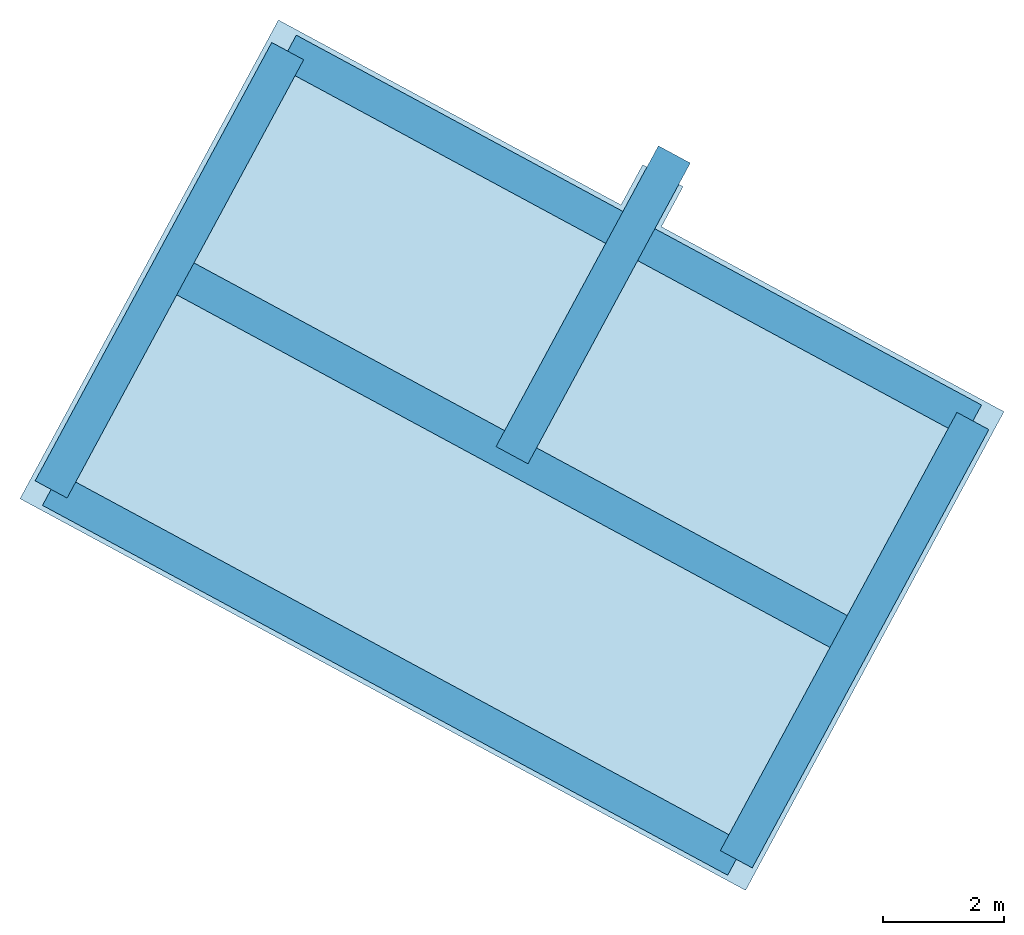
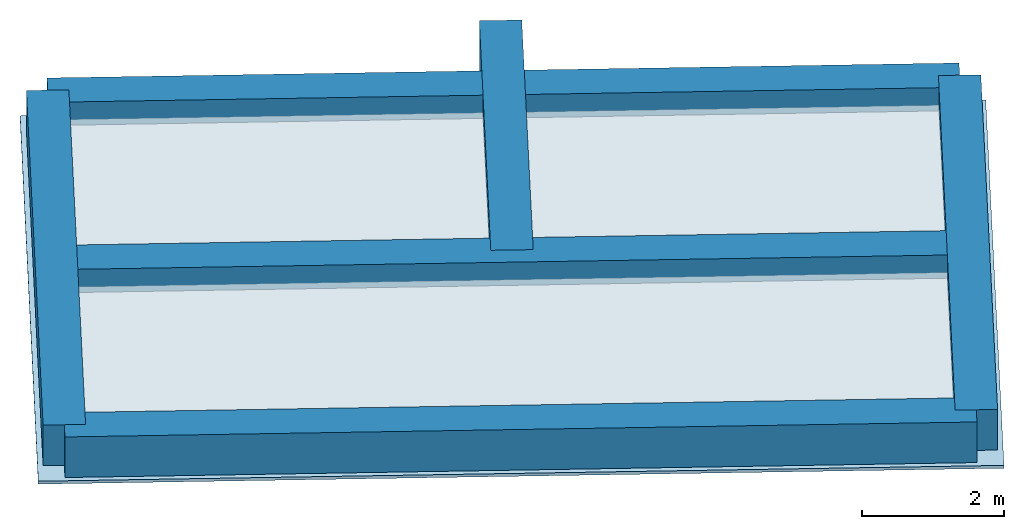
# One storey, part 1 of 2: 9 footings, 1 slab.
"""IFC2X3 building model written with IfcOpenShell, lengths in metres."""

from ifc_helpers import new_model, entity, si_unit, converted_unit, derived_unit, money_unit, direction, frame, origin_with_axes, origin_2d_with_axis, place, context, subcontext, project, spatial, polyline, rectangle, outline, extrude, material, layer, layer_set, layer_usage, type_object, element, save


model = new_model("IFC2X3")

# Units and contexts
model_context = context("Model", 3, precision=1e-05, world=origin_with_axes(), true_north=direction((0.0, 1.0)))
body_context = subcontext(model_context, "Body", "Model", "MODEL_VIEW")
ifc_project = project(units=[si_unit("LENGTHUNIT", "METRE"), si_unit("AREAUNIT", "SQUARE_METRE"), si_unit("VOLUMEUNIT", "CUBIC_METRE"), converted_unit("PLANEANGLEUNIT", "DEGREE", entity("IfcPlaneAngleMeasure", 0.0174532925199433), si_unit("PLANEANGLEUNIT", "RADIAN"), dimensions=[0, 0, 0, 0, 0, 0, 0]), money_unit("EUR"), converted_unit("TIMEUNIT", "Year", entity("IfcTimeMeasure", 31556926.0), si_unit("TIMEUNIT", "SECOND"), dimensions=[0, 0, 1, 0, 0, 0, 0]), si_unit("MASSUNIT", "GRAM", prefix="KILO"), si_unit("THERMODYNAMICTEMPERATUREUNIT", "DEGREE_CELSIUS"), si_unit("LUMINOUSINTENSITYUNIT", "LUMEN"), si_unit("ENERGYUNIT", "JOULE", prefix="MEGA"), derived_unit("THERMALCONDUCTANCEUNIT", [(si_unit("POWERUNIT", "WATT"), 1), (si_unit("LENGTHUNIT", "METRE"), -1), (si_unit("THERMODYNAMICTEMPERATUREUNIT", "KELVIN"), -1)]), derived_unit("SPECIFICHEATCAPACITYUNIT", [(si_unit("ENERGYUNIT", "JOULE"), 1), (si_unit("MASSUNIT", "GRAM", prefix="KILO"), -1), (si_unit("THERMODYNAMICTEMPERATUREUNIT", "KELVIN"), -1)]), derived_unit("MASSDENSITYUNIT", [(si_unit("MASSUNIT", "GRAM", prefix="KILO"), 1), (si_unit("VOLUMEUNIT", "CUBIC_METRE"), -1)])], contexts=[model_context])

# Site, building, storey
site_placement = place(None, frame((-3.949935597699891, 1.740105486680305, 0.0), z_axis=(0.0, 0.0, 1.0), x_axis=(0.8799804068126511, -0.475009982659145, 0.0)))
site = spatial("IfcSite", under=ifc_project, at=site_placement, Name="Gelände", CompositionType="ELEMENT")
building_placement = place(site_placement, origin_with_axes())
building = spatial("IfcBuilding", under=site, at=building_placement, Name="Gebäude", CompositionType="ELEMENT")
storey_placement = place(building_placement, frame((0.0, 0.0, -3.68), z_axis=(0.0, 0.0, 1.0), x_axis=(1.0, 0.0, 0.0)))
storey = spatial("IfcBuildingStorey", under=building, at=storey_placement, Name="Gründung", CompositionType="ELEMENT", Elevation=-3.68)

# Footings
ifc_material_1 = material(Name="_SIWH - Beton, Stahlbeton")
footing_1_placement = place(storey_placement, frame((10.77500603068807, 14.92906048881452, 0.3500000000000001), z_axis=(0.0, 0.0, 1.0), x_axis=(1.0, 0.0, 0.0)))
element("IfcFooting", 1, at=footing_1_placement, inside=storey, material=ifc_material_1, Name="Unterzug-014", PredefinedType="NOTDEFINED", context=body_context, shape_type="SweptSolid", body=[
    extrude(rectangle(XDim=0.7, YDim=0.6, at=origin_2d_with_axis()), frame((0.0, 0.0, 0.0), z_axis=(0.0, 1.0, 0.0), x_axis=(0.0, 0.0, 1.0)), (0.0, 0.0, 1.0), 5.656215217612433),
])
for number, where, z_axis, x_axis, name in (
    (2, (4.332528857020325, 10.80780061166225, 0.3500000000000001), (0.0, 0.0, 1.0), (0.0, -1.0, 0.0), "Unterzug-014"),
    (3, (4.332528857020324, 14.92906048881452, 0.3500000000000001), (0.0, 0.0, 1.0), (0.0, -1.0, 0.0), "Unterzug-014"),
):
    element("IfcFooting", number, at=place(storey_placement, frame(where, z_axis=z_axis, x_axis=x_axis)), inside=storey, material=ifc_material_1, Name=name, PredefinedType="NOTDEFINED", context=body_context, shape_type="SweptSolid", body=[
        extrude(rectangle(XDim=0.7, YDim=0.6, at=origin_2d_with_axis()), frame((0.0, 0.0, 0.0), z_axis=(0.0, 1.0, 0.0), x_axis=(0.0, 0.0, 1.0)), (0.0, 0.0, 1.0), 12.8849543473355),
    ])
footing_2_placement = place(storey_placement, frame((4.332528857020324, 19.0503203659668, 0.3500000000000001), z_axis=(0.0, 0.0, 1.0), x_axis=(-1.0, 0.0, 0.0)))
element("IfcFooting", 4, at=footing_2_placement, inside=storey, material=ifc_material_1, Name="Unterzug-014", PredefinedType="NOTDEFINED", context=body_context, shape_type="SweptSolid", body=[
    extrude(rectangle(XDim=0.7, YDim=0.6, at=origin_2d_with_axis()), frame((0.0, 0.0, 0.0), z_axis=(0.0, 1.0, 0.0), x_axis=(0.0, 0.0, 1.0)), (0.0, 0.0, 1.0), 8.242519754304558),
])
footing_3_placement = place(storey_placement, frame((4.332528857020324, 19.0503203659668, 0.3500000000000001), z_axis=(0.0, 0.0, 1.0), x_axis=(0.0, -1.0, 0.0)))
element("IfcFooting", 5, at=footing_3_placement, inside=storey, material=ifc_material_1, Name="Unterzug-014", PredefinedType="NOTDEFINED", context=body_context, shape_type="SweptSolid", body=[
    extrude(rectangle(XDim=0.7, YDim=0.6, at=origin_2d_with_axis()), frame((0.0, 0.0, 0.0), z_axis=(0.0, 1.0, 0.0), x_axis=(0.0, 0.0, 1.0)), (0.0, 0.0, 1.0), 12.8849543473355),
])
footing_4_placement = place(storey_placement, frame((17.21748320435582, 10.80780061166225, 0.3500000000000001), z_axis=(0.0, 0.0, 1.0), x_axis=(1.0, 0.0, 0.0)))
element("IfcFooting", 6, at=footing_4_placement, inside=storey, material=ifc_material_1, Name="Unterzug-014", PredefinedType="NOTDEFINED", context=body_context, shape_type="SweptSolid", body=[
    extrude(rectangle(XDim=0.7, YDim=0.6, at=origin_2d_with_axis()), frame((0.0, 0.0, 0.0), z_axis=(0.0, 1.0, 0.0), x_axis=(0.0, 0.0, 1.0)), (0.0, 0.0, 1.0), 8.242519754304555),
])
ifc_material_2 = material(Name="Beton, unbewehrt")
footing_5_placement = place(storey_placement, frame((4.632528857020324, 15.22906061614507, 0.2999999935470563), z_axis=(0.0, 0.0, 1.0), x_axis=(1.0, 0.0, 0.0)))
element("IfcFooting", 7, at=footing_5_placement, inside=storey, material=ifc_material_2, Name="Decke037", PredefinedType="NOTDEFINED", context=body_context, shape_type="SweptSolid", body=[
    extrude(outline(polyline([(0.0, 0.0), (5.842477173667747, 0.0), (5.842477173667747, 3.521259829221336), (0.0, 3.521259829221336), (0.0, 0.0)])), frame((0.0, 0.0, -0.05), z_axis=(0.0, 0.0, 1.0), x_axis=(1.0, 0.0, 0.0)), (0.0, 0.0, 1.0), 0.05),
])
footing_6_placement = place(storey_placement, frame((4.632528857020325, 11.1078007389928, 0.2999999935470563), z_axis=(0.0, 0.0, 1.0), x_axis=(1.0, 0.0, 0.0)))
element("IfcFooting", 8, at=footing_6_placement, inside=storey, material=ifc_material_2, Name="Decke038", PredefinedType="NOTDEFINED", context=body_context, shape_type="SweptSolid", body=[
    extrude(outline(polyline([(0.0, 0.0), (12.2849543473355, 0.0), (12.2849543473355, 3.521259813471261), (0.0, 3.521259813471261), (0.0, 0.0)])), frame((0.0, 0.0, -0.05), z_axis=(0.0, 0.0, 1.0), x_axis=(1.0, 0.0, 0.0)), (0.0, 0.0, 1.0), 0.05),
])
footing_7_placement = place(storey_placement, frame((11.0750060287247, 15.22906056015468, 0.2999999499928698), z_axis=(0.0, 0.0, 1.0), x_axis=(1.0, 0.0, 0.0)))
element("IfcFooting", 9, at=footing_7_placement, inside=storey, material=ifc_material_2, Name="Decke036", PredefinedType="NOTDEFINED", context=body_context, shape_type="SweptSolid", body=[
    extrude(outline(polyline([(0.0, 0.0), (5.842477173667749, 0.0), (5.842477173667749, 3.521259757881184), (0.0, 3.521259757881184), (0.0, 0.0)])), frame((0.0, 0.0, -0.05), z_axis=(0.0, 0.0, 1.0), x_axis=(1.0, 0.0, 0.0)), (0.0, 0.0, 1.0), 0.05),
])

# Slab
ifc_layer = layer(ifc_material_2, 0.05, ventilated="UNKNOWN")
ifc_layer_set = layer_set([ifc_layer], Name="Beton, unbewehrt 0.05")
ifc_layer_usage = layer_usage(ifc_layer_set, "AXIS3", "NEGATIVE", 0.05)
slab_type = type_object("IfcSlabType", Name="Beton, unbewehrt 50", PredefinedType="BASESLAB")
slab_placement = place(storey_placement, frame((3.952529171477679, 19.43032037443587, 0.0), z_axis=(0.0, 0.0, 1.0), x_axis=(1.0, 0.0, 0.0)))
element("IfcSlab", 10, at=slab_placement, inside=storey, type_object=slab_type, material=ifc_layer_usage, Name="Decke039", PredefinedType="BASESLAB", context=body_context, shape_type="SweptSolid", body=[
    extrude(outline(polyline([(0.0, 0.0), (7.857299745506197e-06, -4.801258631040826), (7.450648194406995e-06, -9.002519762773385), (13.64494894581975, -9.002519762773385), (13.64494894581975, 1.920074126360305e-07), (7.202476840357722, -8.82451089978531e-09), (7.202476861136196, 0.7549671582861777), (7.122476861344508, 0.7549671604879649), (7.122476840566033, 1.154955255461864), (6.522476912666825, 1.154955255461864), (6.522476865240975, 0.7549671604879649), (6.442476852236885, 0.7549671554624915), (6.442476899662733, -4.016638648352e-07), (0.0, 0.0)]), holes=[polyline([(0.6799996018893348, -4.201259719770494), (0.6799996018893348, -0.6800000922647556), (6.522477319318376, -0.6800000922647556), (6.522476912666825, -4.20125992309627), (0.6799996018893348, -4.201259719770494)]), polyline([(0.6799996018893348, -8.322519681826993), (0.6800065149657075, -4.801259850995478), (12.96495394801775, -4.801259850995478), (12.96495394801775, -8.322519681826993), (0.6799996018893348, -8.322519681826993)]), polyline([(7.122477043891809, -4.20125992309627), (7.122477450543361, -0.6800000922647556), (12.96495394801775, -0.6800000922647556), (12.96495394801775, -4.201259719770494), (7.122477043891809, -4.20125992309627)])]), frame((0.0, 0.0, -0.05), z_axis=(0.0, 0.0, 1.0), x_axis=(1.0, 0.0, 0.0)), (0.0, 0.0, 1.0), 0.05),
])

save(model, "model.ifc")
